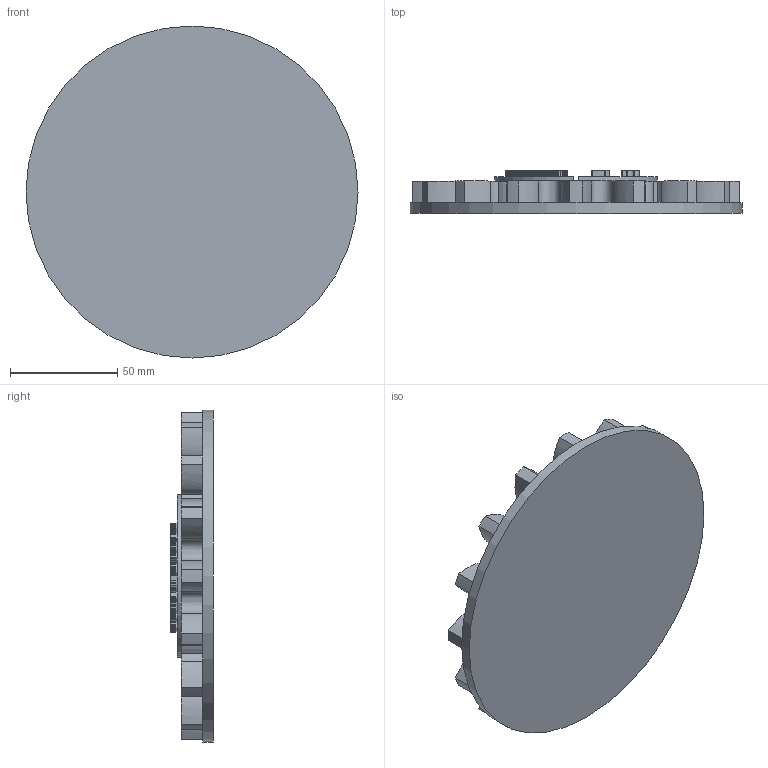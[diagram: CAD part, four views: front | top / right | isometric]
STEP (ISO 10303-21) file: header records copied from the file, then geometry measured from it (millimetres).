
FILE_DESCRIPTION(/* description */ (''),/* implementation_level */ '2;1');
FILE_NAME(/* name */ 'Assieme_LOGO3.stp',/* time_stamp */ '2025-03-06T07:08:57+01:00',/* author */ ('R5800u'),/* organization */ (''),/* preprocessor_version */ 'ST-DEVELOPER v20',/* originating_system */ 'Autodesk Inventor 2025',/* authorisation */ '');
FILE_SCHEMA (('AUTOMOTIVE_DESIGN { 1 0 10303 214 3 1 1 }'));
Products named in the file (5): Assieme2; base; ingranaggio_vero; semicerchio; semicerchio2a
Assembly tree (7 placements, depth 2):
  Assieme2
    base
    ingranaggio_vero  x4
    semicerchio
    semicerchio2a
Bounding box: 155 x 20 x 155 mm (x, y, z)
Volume: 232211.8 mm3; surface area: 92346.2 mm2
Topology: 7 solids, 7 shells, 2056 faces, 5976 edges, 3984 vertices
Faces by surface type: plane 1795, bspline 134, cylinder 115, torus 12
Full cylindrical faces by diameter (mm): 6 x12, 6.2 x12, 155 x1
Entity records: 66458 total; most frequent: CARTESIAN_POINT 14010, ORIENTED_EDGE 11610, DIRECTION 9600, EDGE_CURVE 5805, LINE 5384, VECTOR 5384, VERTEX_POINT 3870, AXIS2_PLACEMENT_3D 2108
